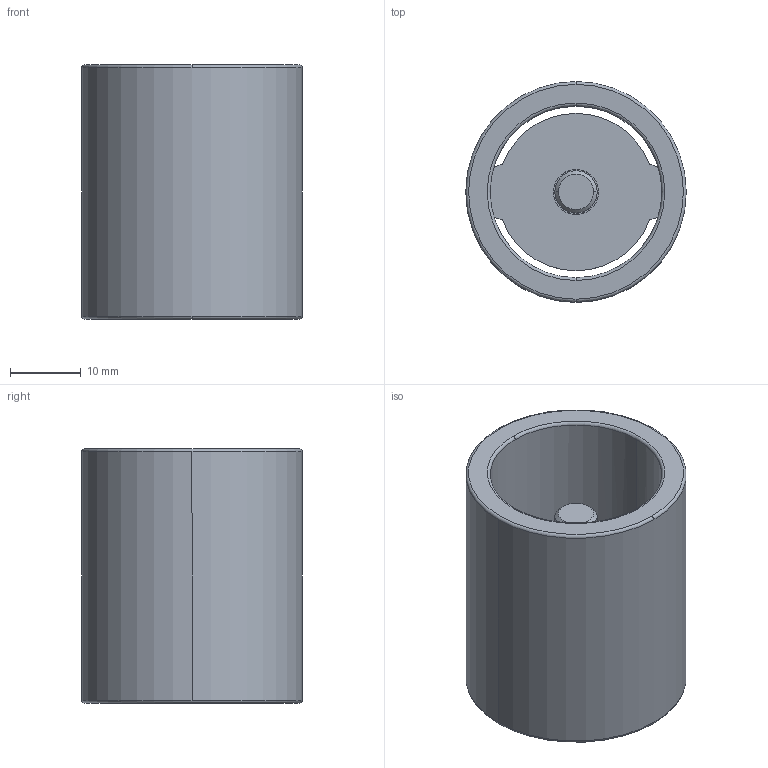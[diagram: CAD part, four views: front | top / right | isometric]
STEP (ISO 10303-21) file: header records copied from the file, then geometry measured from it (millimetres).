
FILE_DESCRIPTION((''),'2;1');
FILE_NAME('C11_024_036.stp','2009-01-12T09:14:21',(''),(''),'Mechanical Desktop 2009','Mechanical Desktop 2009',', , ');
FILE_SCHEMA(('CONFIG_CONTROL_DESIGN'));
Length unit declared in the file: millimetre
Products named in the file (2): Product; blmdl1
Assembly tree (1 placements, depth 2):
  Product
    blmdl1
Bounding box: 31.25 x 31.25 x 36 mm (x, y, z)
Volume: 12413.8 mm3; surface area: 8554.7 mm2
Topology: 3 solids, 3 shells, 44 faces, 110 edges, 74 vertices
Faces by surface type: cylinder 16, plane 16, torus 10, cone 2
Entity records: 1507 total; most frequent: CARTESIAN_POINT 274, DIRECTION 266, ORIENTED_EDGE 220, AXIS2_PLACEMENT_3D 114, EDGE_CURVE 110, VERTEX_POINT 74, CIRCLE 68, EDGE_LOOP 50
